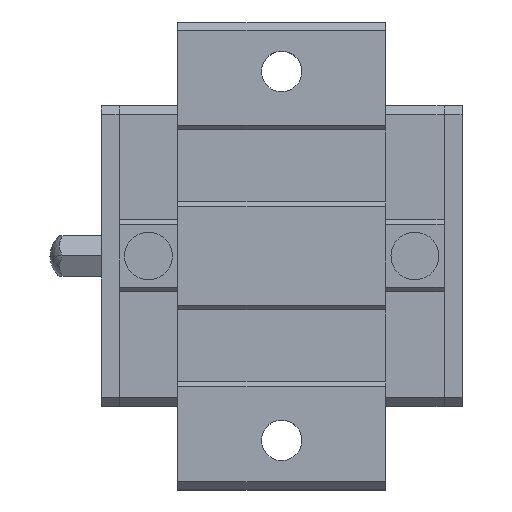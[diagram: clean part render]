
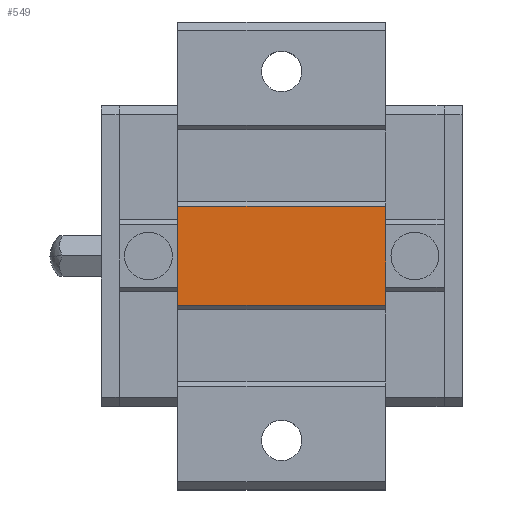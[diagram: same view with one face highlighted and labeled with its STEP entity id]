
A CAD part, top view. The second image highlights one B-rep face of the part: STEP entity #549.
In plain terms, the highlighted planar face has unit normal (0, 0, 1).
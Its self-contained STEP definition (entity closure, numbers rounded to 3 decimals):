
#488=CARTESIAN_POINT('POINT42',(31.6,-5.5,19.5));
#489=VERTEX_POINT('VERTEX42',#488);
#496=CARTESIAN_POINT('POINT43',(8.5,-5.5,19.5));
#497=VERTEX_POINT('VERTEX43',#496);
#498=CARTESIAN_POINT('POS58',(8.5,-5.5,19.5));
#499=DIRECTION('DIR82',(1.,0.,0.));
#500=VECTOR('VEC34',#499,1.);
#501=LINE('STRAIGHT34',#498,#500);
#502=EDGE_CURVE('EDGE53',#497,#489,#501,.T.);
#519=CARTESIAN_POINT('POINT44',(31.6,5.5,19.5));
#520=VERTEX_POINT('VERTEX44',#519);
#521=CARTESIAN_POINT('POS61',(31.6,5.5,19.5));
#522=DIRECTION('DIR86',(0.,1.,0.));
#523=VECTOR('VEC36',#522,1.);
#524=LINE('STRAIGHT36',#521,#523);
#525=EDGE_CURVE('EDGE55',#489,#520,#524,.T.);
#526=ORIENTED_EDGE('COEDGE69',*,*,#525,.T.);
#527=CARTESIAN_POINT('POINT45',(8.5,5.5,19.5));
#528=VERTEX_POINT('VERTEX45',#527);
#529=CARTESIAN_POINT('POS62',(8.5,5.5,19.5));
#530=DIRECTION('DIR87',(1.,0.,0.));
#531=VECTOR('VEC37',#530,1.);
#532=LINE('STRAIGHT37',#529,#531);
#533=EDGE_CURVE('EDGE56',#528,#520,#532,.T.);
#534=ORIENTED_EDGE('COEDGE70',*,*,#533,.F.);
#535=CARTESIAN_POINT('POS63',(8.5,0.,19.5));
#536=DIRECTION('DIR88',(0.,-1.,0.));
#537=VECTOR('VEC38',#536,1.);
#538=LINE('STRAIGHT38',#535,#537);
#539=EDGE_CURVE('EDGE57',#528,#497,#538,.T.);
#540=ORIENTED_EDGE('COEDGE71',*,*,#539,.T.);
#541=ORIENTED_EDGE('COEDGE72',*,*,#502,.T.);
#542=EDGE_LOOP('NONE',(#526,#534,#540,#541));
#543=FACE_BOUND('LOOP1',#542,.T.);
#544=CARTESIAN_POINT('POS64',(8.5,0.,19.5));
#545=DIRECTION('DIR89',(0.,0.,1.));
#546=DIRECTION('DIR90',(1.,0.,0.));
#547=AXIS2_PLACEMENT_3D('AXIS26',#544,#545,#546);
#548=PLANE('PLANE11',#547);
#549=ADVANCED_FACE('FACE16',(#543),#548,.T.);
